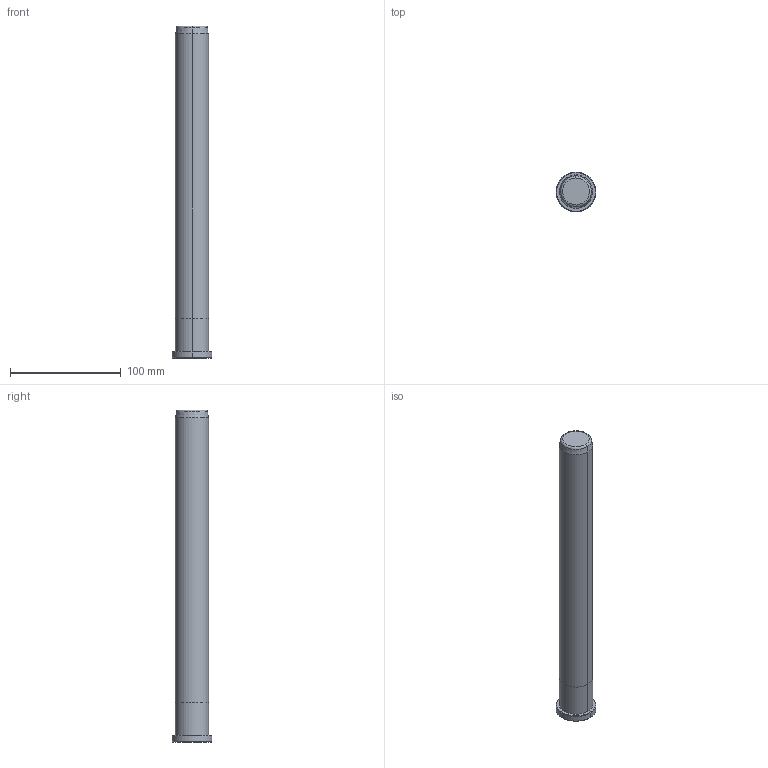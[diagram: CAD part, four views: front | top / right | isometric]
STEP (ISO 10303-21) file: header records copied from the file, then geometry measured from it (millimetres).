
FILE_DESCRIPTION((''),'2;1');
FILE_NAME('B82830300','2018-01-22T',('MANU'),(''),'PRO/ENGINEER BY PARAMETRIC TECHNOLOGY CORPORATION, 2012130','PRO/ENGINEER BY PARAMETRIC TECHNOLOGY CORPORATION, 2012130','');
FILE_SCHEMA(('CONFIG_CONTROL_DESIGN'));
Length unit declared in the file: millimetre
Products named in the file (1): B82830300
Bounding box: 36 x 36 x 300 mm (x, y, z)
Volume: 213480.2 mm3; surface area: 30179.1 mm2
Topology: 1 solids, 1 shells, 18 faces, 34 edges, 20 vertices
Faces by surface type: cone 6, cylinder 6, plane 4, torus 2
Entity records: 494 total; most frequent: DIRECTION 92, CARTESIAN_POINT 72, ORIENTED_EDGE 68, AXIS2_PLACEMENT_3D 40, EDGE_CURVE 34, CIRCLE 22, VERTEX_POINT 20, EDGE_LOOP 20
